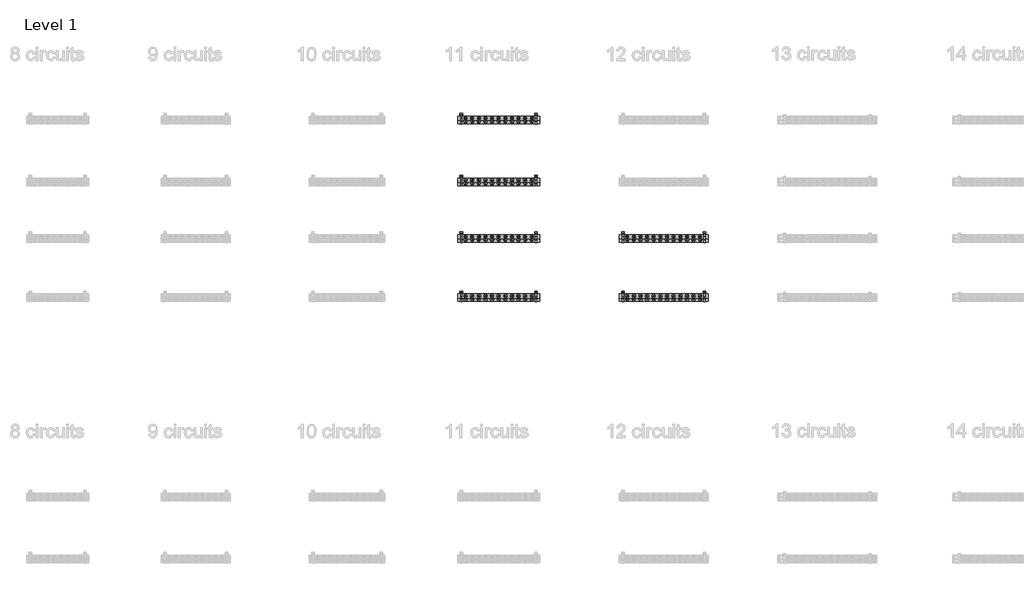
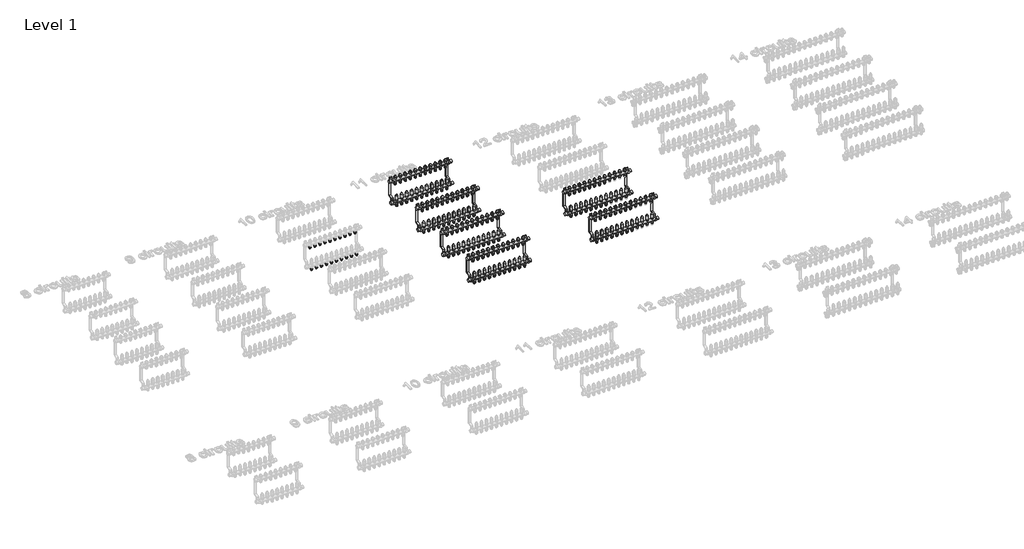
# One storey, part 11 of 23: 140 pipe fittings, 6 valves.
"""IFC4 building model written with IfcOpenShell, lengths in millimetres."""

from ifc_helpers import new_model, si_unit, origin, place, context, project, spatial, transform, mapped, element, save
from components import pipe_fitting_03c6499f, valve_5647343c, valve_f26d3ca9, valve_25ad0012, valve_28fdf4a6, valve_a7423dcf, valve_d379a65c, valve_24eee51e

model = new_model("IFC4")

# Units and contexts
model_context = context("Model", 3, world=origin())
ifc_project = project(units=[si_unit("LENGTHUNIT", "METRE", prefix="MILLI")], contexts=[model_context])

# Site, building, storey
site = spatial("IfcSite", under=ifc_project)
building = spatial("IfcBuilding", under=site)
storey = spatial("IfcBuildingStorey", under=building, Name="Level 1", Elevation=0.0)

# Pipe fittings
placement = place(None, origin())
pipe_fitting_shape = pipe_fitting_03c6499f(model_context)
element("IfcPipeFitting", 1, ObjectType="Euroconus screwing for multilayer pipes - Manifold FT : Euroconus screwing for multilayer pipes - Manifold FT", at=placement, inside=storey, context=model_context, shape_type="MappedRepresentation", body=[
    mapped(pipe_fitting_shape, transform((9725.8685751, 1175.3040686, 62.88733), x_axis=(0.0, 0.0, -1.0), y_axis=(0.0, 1.0000000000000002, 0.0), z_axis=(1.0000000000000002, 0.0, 0.0))),
])
element("IfcPipeFitting", 2, ObjectType="Euroconus screwing for multilayer pipes - Manifold FT : Euroconus screwing for multilayer pipes - Manifold FT", at=placement, inside=storey, context=model_context, shape_type="MappedRepresentation", body=[
    mapped(pipe_fitting_shape, transform((9676.7574639, 1175.3040686, 62.88733), x_axis=(0.0, 0.0, -1.0), y_axis=(0.0, 1.0000000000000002, 0.0), z_axis=(1.0000000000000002, 0.0, 0.0))),
])
element("IfcPipeFitting", 3, ObjectType="Euroconus screwing for multilayer pipes - Manifold FT : Euroconus screwing for multilayer pipes - Manifold FT", at=placement, inside=storey, context=model_context, shape_type="MappedRepresentation", body=[
    mapped(pipe_fitting_shape, transform((9627.6463528, 1175.3040686, 62.88733), x_axis=(0.0, 0.0, -1.0), y_axis=(0.0, 1.0000000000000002, 0.0), z_axis=(1.0000000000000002, 0.0, 0.0))),
])
element("IfcPipeFitting", 4, ObjectType="Euroconus screwing for multilayer pipes - Manifold FT : Euroconus screwing for multilayer pipes - Manifold FT", at=placement, inside=storey, context=model_context, shape_type="MappedRepresentation", body=[
    mapped(pipe_fitting_shape, transform((9578.5352417, 1175.3040686, 62.88733), x_axis=(0.0, 0.0, -1.0), y_axis=(0.0, 1.0000000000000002, 0.0), z_axis=(1.0000000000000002, 0.0, 0.0))),
])
element("IfcPipeFitting", 5, ObjectType="Euroconus screwing for multilayer pipes - Manifold FT : Euroconus screwing for multilayer pipes - Manifold FT", at=placement, inside=storey, context=model_context, shape_type="MappedRepresentation", body=[
    mapped(pipe_fitting_shape, transform((9529.4241306, 1175.3040686, 62.88733), x_axis=(0.0, 0.0, -1.0), y_axis=(0.0, 1.0000000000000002, 0.0), z_axis=(1.0000000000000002, 0.0, 0.0))),
])
element("IfcPipeFitting", 6, ObjectType="Euroconus screwing for multilayer pipes - Manifold FT : Euroconus screwing for multilayer pipes - Manifold FT", at=placement, inside=storey, context=model_context, shape_type="MappedRepresentation", body=[
    mapped(pipe_fitting_shape, transform((9480.3130195, 1175.3040686, 62.88733), x_axis=(0.0, 0.0, -1.0), y_axis=(0.0, 1.0000000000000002, 0.0), z_axis=(1.0000000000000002, 0.0, 0.0))),
])
element("IfcPipeFitting", 7, ObjectType="Euroconus screwing for multilayer pipes - Manifold FT : Euroconus screwing for multilayer pipes - Manifold FT", at=placement, inside=storey, context=model_context, shape_type="MappedRepresentation", body=[
    mapped(pipe_fitting_shape, transform((9431.2019084, 1175.3040686, 62.88733), x_axis=(0.0, 0.0, -1.0), y_axis=(0.0, 1.0000000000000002, 0.0), z_axis=(1.0000000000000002, 0.0, 0.0))),
])
element("IfcPipeFitting", 8, ObjectType="Euroconus screwing for multilayer pipes - Manifold FT : Euroconus screwing for multilayer pipes - Manifold FT", at=placement, inside=storey, context=model_context, shape_type="MappedRepresentation", body=[
    mapped(pipe_fitting_shape, transform((9382.0907973, 1175.3040686, 62.88733), x_axis=(0.0, 0.0, -1.0), y_axis=(0.0, 1.0000000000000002, 0.0), z_axis=(1.0000000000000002, 0.0, 0.0))),
])
element("IfcPipeFitting", 9, ObjectType="Euroconus screwing for multilayer pipes - Manifold FT : Euroconus screwing for multilayer pipes - Manifold FT", at=placement, inside=storey, context=model_context, shape_type="MappedRepresentation", body=[
    mapped(pipe_fitting_shape, transform((9774.9796862, 1175.3040686, 62.88733), x_axis=(0.0, 0.0, -1.0), y_axis=(0.0, 1.0000000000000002, 0.0), z_axis=(1.0000000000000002, 0.0, 0.0))),
])
element("IfcPipeFitting", 10, ObjectType="Euroconus screwing for multilayer pipes - Manifold FT : Euroconus screwing for multilayer pipes - Manifold FT", at=placement, inside=storey, context=model_context, shape_type="MappedRepresentation", body=[
    mapped(pipe_fitting_shape, transform((9725.8685751, 1200.3040686, 272.88733), x_axis=(0.0, 0.0, -1.0), y_axis=(0.0, 1.0000000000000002, 0.0), z_axis=(1.0000000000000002, 0.0, 0.0))),
])
element("IfcPipeFitting", 11, ObjectType="Euroconus screwing for multilayer pipes - Manifold FT : Euroconus screwing for multilayer pipes - Manifold FT", at=placement, inside=storey, context=model_context, shape_type="MappedRepresentation", body=[
    mapped(pipe_fitting_shape, transform((9676.7574639, 1200.3040686, 272.88733), x_axis=(0.0, 0.0, -1.0), y_axis=(0.0, 1.0000000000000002, 0.0), z_axis=(1.0000000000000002, 0.0, 0.0))),
])
element("IfcPipeFitting", 12, ObjectType="Euroconus screwing for multilayer pipes - Manifold FT : Euroconus screwing for multilayer pipes - Manifold FT", at=placement, inside=storey, context=model_context, shape_type="MappedRepresentation", body=[
    mapped(pipe_fitting_shape, transform((9627.6463528, 1200.3040686, 272.88733), x_axis=(0.0, 0.0, -1.0), y_axis=(0.0, 1.0000000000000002, 0.0), z_axis=(1.0000000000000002, 0.0, 0.0))),
])
element("IfcPipeFitting", 13, ObjectType="Euroconus screwing for multilayer pipes - Manifold FT : Euroconus screwing for multilayer pipes - Manifold FT", at=placement, inside=storey, context=model_context, shape_type="MappedRepresentation", body=[
    mapped(pipe_fitting_shape, transform((9578.5352417, 1200.3040686, 272.88733), x_axis=(0.0, 0.0, -1.0), y_axis=(0.0, 1.0000000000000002, 0.0), z_axis=(1.0000000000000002, 0.0, 0.0))),
])
element("IfcPipeFitting", 14, ObjectType="Euroconus screwing for multilayer pipes - Manifold FT : Euroconus screwing for multilayer pipes - Manifold FT", at=placement, inside=storey, context=model_context, shape_type="MappedRepresentation", body=[
    mapped(pipe_fitting_shape, transform((9529.4241306, 1200.3040686, 272.88733), x_axis=(0.0, 0.0, -1.0), y_axis=(0.0, 1.0000000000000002, 0.0), z_axis=(1.0000000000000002, 0.0, 0.0))),
])
element("IfcPipeFitting", 15, ObjectType="Euroconus screwing for multilayer pipes - Manifold FT : Euroconus screwing for multilayer pipes - Manifold FT", at=placement, inside=storey, context=model_context, shape_type="MappedRepresentation", body=[
    mapped(pipe_fitting_shape, transform((9480.3130195, 1200.3040686, 272.88733), x_axis=(0.0, 0.0, -1.0), y_axis=(0.0, 1.0000000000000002, 0.0), z_axis=(1.0000000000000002, 0.0, 0.0))),
])
element("IfcPipeFitting", 16, ObjectType="Euroconus screwing for multilayer pipes - Manifold FT : Euroconus screwing for multilayer pipes - Manifold FT", at=placement, inside=storey, context=model_context, shape_type="MappedRepresentation", body=[
    mapped(pipe_fitting_shape, transform((9431.2019084, 1200.3040686, 272.88733), x_axis=(0.0, 0.0, -1.0), y_axis=(0.0, 1.0000000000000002, 0.0), z_axis=(1.0000000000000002, 0.0, 0.0))),
])
element("IfcPipeFitting", 17, ObjectType="Euroconus screwing for multilayer pipes - Manifold FT : Euroconus screwing for multilayer pipes - Manifold FT", at=placement, inside=storey, context=model_context, shape_type="MappedRepresentation", body=[
    mapped(pipe_fitting_shape, transform((9382.0907973, 1200.3040686, 272.88733), x_axis=(0.0, 0.0, -1.0), y_axis=(0.0, 1.0000000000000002, 0.0), z_axis=(1.0000000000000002, 0.0, 0.0))),
])
element("IfcPipeFitting", 18, ObjectType="Euroconus screwing for multilayer pipes - Manifold FT : Euroconus screwing for multilayer pipes - Manifold FT", at=placement, inside=storey, context=model_context, shape_type="MappedRepresentation", body=[
    mapped(pipe_fitting_shape, transform((9774.9796862, 1200.3040686, 272.88733), x_axis=(0.0, 0.0, -1.0), y_axis=(0.0, 1.0000000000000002, 0.0), z_axis=(1.0000000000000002, 0.0, 0.0))),
])
element("IfcPipeFitting", 19, ObjectType="Euroconus screwing for multilayer pipes - Manifold FT : Euroconus screwing for multilayer pipes - Manifold FT", at=placement, inside=storey, context=model_context, shape_type="MappedRepresentation", body=[
    mapped(pipe_fitting_shape, transform((9332.9796862, 1175.3040686, 62.88733), x_axis=(0.0, 0.0, -1.0), y_axis=(0.0, 1.0000000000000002, 0.0), z_axis=(1.0000000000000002, 0.0, 0.0))),
])
element("IfcPipeFitting", 20, ObjectType="Euroconus screwing for multilayer pipes - Manifold FT : Euroconus screwing for multilayer pipes - Manifold FT", at=placement, inside=storey, context=model_context, shape_type="MappedRepresentation", body=[
    mapped(pipe_fitting_shape, transform((9332.9796862, 1200.3040686, 272.88733), x_axis=(0.0, 0.0, -1.0), y_axis=(0.0, 1.0000000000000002, 0.0), z_axis=(1.0000000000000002, 0.0, 0.0))),
])
element("IfcPipeFitting", 21, ObjectType="Euroconus screwing for multilayer pipes - Manifold FT : Euroconus screwing for multilayer pipes - Manifold FT", at=placement, inside=storey, context=model_context, shape_type="MappedRepresentation", body=[
    mapped(pipe_fitting_shape, transform((10875.7796862, 1635.3040686, 62.88733), x_axis=(0.0, 0.0, -1.0), y_axis=(0.0, 1.0000000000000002, 0.0), z_axis=(1.0000000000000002, 0.0, 0.0))),
])
element("IfcPipeFitting", 22, ObjectType="Euroconus screwing for multilayer pipes - Manifold FT : Euroconus screwing for multilayer pipes - Manifold FT", at=placement, inside=storey, context=model_context, shape_type="MappedRepresentation", body=[
    mapped(pipe_fitting_shape, transform((10826.5796862, 1635.3040686, 62.88733), x_axis=(0.0, 0.0, -1.0), y_axis=(0.0, 1.0000000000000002, 0.0), z_axis=(1.0000000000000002, 0.0, 0.0))),
])
element("IfcPipeFitting", 23, ObjectType="Euroconus screwing for multilayer pipes - Manifold FT : Euroconus screwing for multilayer pipes - Manifold FT", at=placement, inside=storey, context=model_context, shape_type="MappedRepresentation", body=[
    mapped(pipe_fitting_shape, transform((10777.3796862, 1635.3040686, 62.88733), x_axis=(0.0, 0.0, -1.0), y_axis=(0.0, 1.0000000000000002, 0.0), z_axis=(1.0000000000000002, 0.0, 0.0))),
])
element("IfcPipeFitting", 24, ObjectType="Euroconus screwing for multilayer pipes - Manifold FT : Euroconus screwing for multilayer pipes - Manifold FT", at=placement, inside=storey, context=model_context, shape_type="MappedRepresentation", body=[
    mapped(pipe_fitting_shape, transform((10728.1796862, 1635.3040686, 62.88733), x_axis=(0.0, 0.0, -1.0), y_axis=(0.0, 1.0000000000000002, 0.0), z_axis=(1.0000000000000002, 0.0, 0.0))),
])
element("IfcPipeFitting", 25, ObjectType="Euroconus screwing for multilayer pipes - Manifold FT : Euroconus screwing for multilayer pipes - Manifold FT", at=placement, inside=storey, context=model_context, shape_type="MappedRepresentation", body=[
    mapped(pipe_fitting_shape, transform((10678.9796862, 1635.3040686, 62.88733), x_axis=(0.0, 0.0, -1.0), y_axis=(0.0, 1.0000000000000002, 0.0), z_axis=(1.0000000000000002, 0.0, 0.0))),
])
element("IfcPipeFitting", 26, ObjectType="Euroconus screwing for multilayer pipes - Manifold FT : Euroconus screwing for multilayer pipes - Manifold FT", at=placement, inside=storey, context=model_context, shape_type="MappedRepresentation", body=[
    mapped(pipe_fitting_shape, transform((10629.7796862, 1635.3040686, 62.88733), x_axis=(0.0, 0.0, -1.0), y_axis=(0.0, 1.0000000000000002, 0.0), z_axis=(1.0000000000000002, 0.0, 0.0))),
])
element("IfcPipeFitting", 27, ObjectType="Euroconus screwing for multilayer pipes - Manifold FT : Euroconus screwing for multilayer pipes - Manifold FT", at=placement, inside=storey, context=model_context, shape_type="MappedRepresentation", body=[
    mapped(pipe_fitting_shape, transform((10580.5796862, 1635.3040686, 62.88733), x_axis=(0.0, 0.0, -1.0), y_axis=(0.0, 1.0000000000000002, 0.0), z_axis=(1.0000000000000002, 0.0, 0.0))),
])
element("IfcPipeFitting", 28, ObjectType="Euroconus screwing for multilayer pipes - Manifold FT : Euroconus screwing for multilayer pipes - Manifold FT", at=placement, inside=storey, context=model_context, shape_type="MappedRepresentation", body=[
    mapped(pipe_fitting_shape, transform((10531.3796862, 1635.3040686, 62.88733), x_axis=(0.0, 0.0, -1.0), y_axis=(0.0, 1.0000000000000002, 0.0), z_axis=(1.0000000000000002, 0.0, 0.0))),
])
element("IfcPipeFitting", 29, ObjectType="Euroconus screwing for multilayer pipes - Manifold FT : Euroconus screwing for multilayer pipes - Manifold FT", at=placement, inside=storey, context=model_context, shape_type="MappedRepresentation", body=[
    mapped(pipe_fitting_shape, transform((10482.1796862, 1635.3040686, 62.88733), x_axis=(0.0, 0.0, -1.0), y_axis=(0.0, 1.0000000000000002, 0.0), z_axis=(1.0000000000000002, 0.0, 0.0))),
])
element("IfcPipeFitting", 30, ObjectType="Euroconus screwing for multilayer pipes - Manifold FT : Euroconus screwing for multilayer pipes - Manifold FT", at=placement, inside=storey, context=model_context, shape_type="MappedRepresentation", body=[
    mapped(pipe_fitting_shape, transform((10924.9796862, 1635.3040686, 62.88733), x_axis=(0.0, 0.0, -1.0), y_axis=(0.0, 1.0000000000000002, 0.0), z_axis=(1.0000000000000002, 0.0, 0.0))),
])
element("IfcPipeFitting", 31, ObjectType="Euroconus screwing for multilayer pipes - Manifold FT : Euroconus screwing for multilayer pipes - Manifold FT", at=placement, inside=storey, context=model_context, shape_type="MappedRepresentation", body=[
    mapped(pipe_fitting_shape, transform((10875.7796862, 1660.3040686, 272.88733), x_axis=(0.0, 0.0, -1.0), y_axis=(0.0, 1.0000000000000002, 0.0), z_axis=(1.0000000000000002, 0.0, 0.0))),
])
element("IfcPipeFitting", 32, ObjectType="Euroconus screwing for multilayer pipes - Manifold FT : Euroconus screwing for multilayer pipes - Manifold FT", at=placement, inside=storey, context=model_context, shape_type="MappedRepresentation", body=[
    mapped(pipe_fitting_shape, transform((10826.5796862, 1660.3040686, 272.88733), x_axis=(0.0, 0.0, -1.0), y_axis=(0.0, 1.0000000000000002, 0.0), z_axis=(1.0000000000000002, 0.0, 0.0))),
])
element("IfcPipeFitting", 33, ObjectType="Euroconus screwing for multilayer pipes - Manifold FT : Euroconus screwing for multilayer pipes - Manifold FT", at=placement, inside=storey, context=model_context, shape_type="MappedRepresentation", body=[
    mapped(pipe_fitting_shape, transform((10777.3796862, 1660.3040686, 272.88733), x_axis=(0.0, 0.0, -1.0), y_axis=(0.0, 1.0000000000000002, 0.0), z_axis=(1.0000000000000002, 0.0, 0.0))),
])
element("IfcPipeFitting", 34, ObjectType="Euroconus screwing for multilayer pipes - Manifold FT : Euroconus screwing for multilayer pipes - Manifold FT", at=placement, inside=storey, context=model_context, shape_type="MappedRepresentation", body=[
    mapped(pipe_fitting_shape, transform((10728.1796862, 1660.3040686, 272.88733), x_axis=(0.0, 0.0, -1.0), y_axis=(0.0, 1.0000000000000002, 0.0), z_axis=(1.0000000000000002, 0.0, 0.0))),
])
element("IfcPipeFitting", 35, ObjectType="Euroconus screwing for multilayer pipes - Manifold FT : Euroconus screwing for multilayer pipes - Manifold FT", at=placement, inside=storey, context=model_context, shape_type="MappedRepresentation", body=[
    mapped(pipe_fitting_shape, transform((10678.9796862, 1660.3040686, 272.88733), x_axis=(0.0, 0.0, -1.0), y_axis=(0.0, 1.0000000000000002, 0.0), z_axis=(1.0000000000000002, 0.0, 0.0))),
])
element("IfcPipeFitting", 36, ObjectType="Euroconus screwing for multilayer pipes - Manifold FT : Euroconus screwing for multilayer pipes - Manifold FT", at=placement, inside=storey, context=model_context, shape_type="MappedRepresentation", body=[
    mapped(pipe_fitting_shape, transform((10629.7796862, 1660.3040686, 272.88733), x_axis=(0.0, 0.0, -1.0), y_axis=(0.0, 1.0000000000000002, 0.0), z_axis=(1.0000000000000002, 0.0, 0.0))),
])
element("IfcPipeFitting", 37, ObjectType="Euroconus screwing for multilayer pipes - Manifold FT : Euroconus screwing for multilayer pipes - Manifold FT", at=placement, inside=storey, context=model_context, shape_type="MappedRepresentation", body=[
    mapped(pipe_fitting_shape, transform((10580.5796862, 1660.3040686, 272.88733), x_axis=(0.0, 0.0, -1.0), y_axis=(0.0, 1.0000000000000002, 0.0), z_axis=(1.0000000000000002, 0.0, 0.0))),
])
element("IfcPipeFitting", 38, ObjectType="Euroconus screwing for multilayer pipes - Manifold FT : Euroconus screwing for multilayer pipes - Manifold FT", at=placement, inside=storey, context=model_context, shape_type="MappedRepresentation", body=[
    mapped(pipe_fitting_shape, transform((10531.3796862, 1660.3040686, 272.88733), x_axis=(0.0, 0.0, -1.0), y_axis=(0.0, 1.0000000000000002, 0.0), z_axis=(1.0000000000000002, 0.0, 0.0))),
])
element("IfcPipeFitting", 39, ObjectType="Euroconus screwing for multilayer pipes - Manifold FT : Euroconus screwing for multilayer pipes - Manifold FT", at=placement, inside=storey, context=model_context, shape_type="MappedRepresentation", body=[
    mapped(pipe_fitting_shape, transform((10482.1796862, 1660.3040686, 272.88733), x_axis=(0.0, 0.0, -1.0), y_axis=(0.0, 1.0000000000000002, 0.0), z_axis=(1.0000000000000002, 0.0, 0.0))),
])
element("IfcPipeFitting", 40, ObjectType="Euroconus screwing for multilayer pipes - Manifold FT : Euroconus screwing for multilayer pipes - Manifold FT", at=placement, inside=storey, context=model_context, shape_type="MappedRepresentation", body=[
    mapped(pipe_fitting_shape, transform((10924.9796862, 1660.3040686, 272.88733), x_axis=(0.0, 0.0, -1.0), y_axis=(0.0, 1.0000000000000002, 0.0), z_axis=(1.0000000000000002, 0.0, 0.0))),
])
element("IfcPipeFitting", 41, ObjectType="Euroconus screwing for multilayer pipes - Manifold FT : Euroconus screwing for multilayer pipes - Manifold FT", at=placement, inside=storey, context=model_context, shape_type="MappedRepresentation", body=[
    mapped(pipe_fitting_shape, transform((10432.9796862, 1635.3040686, 62.88733), x_axis=(0.0, 0.0, -1.0), y_axis=(0.0, 1.0000000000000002, 0.0), z_axis=(1.0000000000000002, 0.0, 0.0))),
])
element("IfcPipeFitting", 42, ObjectType="Euroconus screwing for multilayer pipes - Manifold FT : Euroconus screwing for multilayer pipes - Manifold FT", at=placement, inside=storey, context=model_context, shape_type="MappedRepresentation", body=[
    mapped(pipe_fitting_shape, transform((10432.9796862, 1660.3040686, 272.88733), x_axis=(0.0, 0.0, -1.0), y_axis=(0.0, 1.0000000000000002, 0.0), z_axis=(1.0000000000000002, 0.0, 0.0))),
])
element("IfcPipeFitting", 43, ObjectType="Euroconus screwing for multilayer pipes - Manifold FT : Euroconus screwing for multilayer pipes - Manifold FT", at=placement, inside=storey, context=model_context, shape_type="MappedRepresentation", body=[
    mapped(pipe_fitting_shape, transform((10875.7796862, 1175.3040686, 62.88733), x_axis=(0.0, 0.0, -1.0), y_axis=(0.0, 1.0000000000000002, 0.0), z_axis=(1.0000000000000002, 0.0, 0.0))),
])
element("IfcPipeFitting", 44, ObjectType="Euroconus screwing for multilayer pipes - Manifold FT : Euroconus screwing for multilayer pipes - Manifold FT", at=placement, inside=storey, context=model_context, shape_type="MappedRepresentation", body=[
    mapped(pipe_fitting_shape, transform((10826.5796862, 1175.3040686, 62.88733), x_axis=(0.0, 0.0, -1.0), y_axis=(0.0, 1.0000000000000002, 0.0), z_axis=(1.0000000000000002, 0.0, 0.0))),
])
element("IfcPipeFitting", 45, ObjectType="Euroconus screwing for multilayer pipes - Manifold FT : Euroconus screwing for multilayer pipes - Manifold FT", at=placement, inside=storey, context=model_context, shape_type="MappedRepresentation", body=[
    mapped(pipe_fitting_shape, transform((10777.3796862, 1175.3040686, 62.88733), x_axis=(0.0, 0.0, -1.0), y_axis=(0.0, 1.0000000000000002, 0.0), z_axis=(1.0000000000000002, 0.0, 0.0))),
])
element("IfcPipeFitting", 46, ObjectType="Euroconus screwing for multilayer pipes - Manifold FT : Euroconus screwing for multilayer pipes - Manifold FT", at=placement, inside=storey, context=model_context, shape_type="MappedRepresentation", body=[
    mapped(pipe_fitting_shape, transform((10728.1796862, 1175.3040686, 62.88733), x_axis=(0.0, 0.0, -1.0), y_axis=(0.0, 1.0000000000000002, 0.0), z_axis=(1.0000000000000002, 0.0, 0.0))),
])
element("IfcPipeFitting", 47, ObjectType="Euroconus screwing for multilayer pipes - Manifold FT : Euroconus screwing for multilayer pipes - Manifold FT", at=placement, inside=storey, context=model_context, shape_type="MappedRepresentation", body=[
    mapped(pipe_fitting_shape, transform((10678.9796862, 1175.3040686, 62.88733), x_axis=(0.0, 0.0, -1.0), y_axis=(0.0, 1.0000000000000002, 0.0), z_axis=(1.0000000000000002, 0.0, 0.0))),
])
element("IfcPipeFitting", 48, ObjectType="Euroconus screwing for multilayer pipes - Manifold FT : Euroconus screwing for multilayer pipes - Manifold FT", at=placement, inside=storey, context=model_context, shape_type="MappedRepresentation", body=[
    mapped(pipe_fitting_shape, transform((10629.7796862, 1175.3040686, 62.88733), x_axis=(0.0, 0.0, -1.0), y_axis=(0.0, 1.0000000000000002, 0.0), z_axis=(1.0000000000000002, 0.0, 0.0))),
])
element("IfcPipeFitting", 49, ObjectType="Euroconus screwing for multilayer pipes - Manifold FT : Euroconus screwing for multilayer pipes - Manifold FT", at=placement, inside=storey, context=model_context, shape_type="MappedRepresentation", body=[
    mapped(pipe_fitting_shape, transform((10580.5796862, 1175.3040686, 62.88733), x_axis=(0.0, 0.0, -1.0), y_axis=(0.0, 1.0000000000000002, 0.0), z_axis=(1.0000000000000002, 0.0, 0.0))),
])
element("IfcPipeFitting", 50, ObjectType="Euroconus screwing for multilayer pipes - Manifold FT : Euroconus screwing for multilayer pipes - Manifold FT", at=placement, inside=storey, context=model_context, shape_type="MappedRepresentation", body=[
    mapped(pipe_fitting_shape, transform((10531.3796862, 1175.3040686, 62.88733), x_axis=(0.0, 0.0, -1.0), y_axis=(0.0, 1.0000000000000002, 0.0), z_axis=(1.0000000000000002, 0.0, 0.0))),
])
element("IfcPipeFitting", 51, ObjectType="Euroconus screwing for multilayer pipes - Manifold FT : Euroconus screwing for multilayer pipes - Manifold FT", at=placement, inside=storey, context=model_context, shape_type="MappedRepresentation", body=[
    mapped(pipe_fitting_shape, transform((10482.1796862, 1175.3040686, 62.88733), x_axis=(0.0, 0.0, -1.0), y_axis=(0.0, 1.0000000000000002, 0.0), z_axis=(1.0000000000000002, 0.0, 0.0))),
])
element("IfcPipeFitting", 52, ObjectType="Euroconus screwing for multilayer pipes - Manifold FT : Euroconus screwing for multilayer pipes - Manifold FT", at=placement, inside=storey, context=model_context, shape_type="MappedRepresentation", body=[
    mapped(pipe_fitting_shape, transform((10924.9796862, 1175.3040686, 62.88733), x_axis=(0.0, 0.0, -1.0), y_axis=(0.0, 1.0000000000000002, 0.0), z_axis=(1.0000000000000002, 0.0, 0.0))),
])
element("IfcPipeFitting", 53, ObjectType="Euroconus screwing for multilayer pipes - Manifold FT : Euroconus screwing for multilayer pipes - Manifold FT", at=placement, inside=storey, context=model_context, shape_type="MappedRepresentation", body=[
    mapped(pipe_fitting_shape, transform((10875.7796862, 1200.3040686, 272.88733), x_axis=(0.0, 0.0, -1.0), y_axis=(0.0, 1.0000000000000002, 0.0), z_axis=(1.0000000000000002, 0.0, 0.0))),
])
element("IfcPipeFitting", 54, ObjectType="Euroconus screwing for multilayer pipes - Manifold FT : Euroconus screwing for multilayer pipes - Manifold FT", at=placement, inside=storey, context=model_context, shape_type="MappedRepresentation", body=[
    mapped(pipe_fitting_shape, transform((10826.5796862, 1200.3040686, 272.88733), x_axis=(0.0, 0.0, -1.0), y_axis=(0.0, 1.0000000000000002, 0.0), z_axis=(1.0000000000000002, 0.0, 0.0))),
])
element("IfcPipeFitting", 55, ObjectType="Euroconus screwing for multilayer pipes - Manifold FT : Euroconus screwing for multilayer pipes - Manifold FT", at=placement, inside=storey, context=model_context, shape_type="MappedRepresentation", body=[
    mapped(pipe_fitting_shape, transform((10777.3796862, 1200.3040686, 272.88733), x_axis=(0.0, 0.0, -1.0), y_axis=(0.0, 1.0000000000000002, 0.0), z_axis=(1.0000000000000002, 0.0, 0.0))),
])
element("IfcPipeFitting", 56, ObjectType="Euroconus screwing for multilayer pipes - Manifold FT : Euroconus screwing for multilayer pipes - Manifold FT", at=placement, inside=storey, context=model_context, shape_type="MappedRepresentation", body=[
    mapped(pipe_fitting_shape, transform((10728.1796862, 1200.3040686, 272.88733), x_axis=(0.0, 0.0, -1.0), y_axis=(0.0, 1.0000000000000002, 0.0), z_axis=(1.0000000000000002, 0.0, 0.0))),
])
element("IfcPipeFitting", 57, ObjectType="Euroconus screwing for multilayer pipes - Manifold FT : Euroconus screwing for multilayer pipes - Manifold FT", at=placement, inside=storey, context=model_context, shape_type="MappedRepresentation", body=[
    mapped(pipe_fitting_shape, transform((10678.9796862, 1200.3040686, 272.88733), x_axis=(0.0, 0.0, -1.0), y_axis=(0.0, 1.0000000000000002, 0.0), z_axis=(1.0000000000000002, 0.0, 0.0))),
])
element("IfcPipeFitting", 58, ObjectType="Euroconus screwing for multilayer pipes - Manifold FT : Euroconus screwing for multilayer pipes - Manifold FT", at=placement, inside=storey, context=model_context, shape_type="MappedRepresentation", body=[
    mapped(pipe_fitting_shape, transform((10629.7796862, 1200.3040686, 272.88733), x_axis=(0.0, 0.0, -1.0), y_axis=(0.0, 1.0000000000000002, 0.0), z_axis=(1.0000000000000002, 0.0, 0.0))),
])
element("IfcPipeFitting", 59, ObjectType="Euroconus screwing for multilayer pipes - Manifold FT : Euroconus screwing for multilayer pipes - Manifold FT", at=placement, inside=storey, context=model_context, shape_type="MappedRepresentation", body=[
    mapped(pipe_fitting_shape, transform((10580.5796862, 1200.3040686, 272.88733), x_axis=(0.0, 0.0, -1.0), y_axis=(0.0, 1.0000000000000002, 0.0), z_axis=(1.0000000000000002, 0.0, 0.0))),
])
element("IfcPipeFitting", 60, ObjectType="Euroconus screwing for multilayer pipes - Manifold FT : Euroconus screwing for multilayer pipes - Manifold FT", at=placement, inside=storey, context=model_context, shape_type="MappedRepresentation", body=[
    mapped(pipe_fitting_shape, transform((10531.3796862, 1200.3040686, 272.88733), x_axis=(0.0, 0.0, -1.0), y_axis=(0.0, 1.0000000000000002, 0.0), z_axis=(1.0000000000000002, 0.0, 0.0))),
])
element("IfcPipeFitting", 61, ObjectType="Euroconus screwing for multilayer pipes - Manifold FT : Euroconus screwing for multilayer pipes - Manifold FT", at=placement, inside=storey, context=model_context, shape_type="MappedRepresentation", body=[
    mapped(pipe_fitting_shape, transform((10482.1796862, 1200.3040686, 272.88733), x_axis=(0.0, 0.0, -1.0), y_axis=(0.0, 1.0000000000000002, 0.0), z_axis=(1.0000000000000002, 0.0, 0.0))),
])
element("IfcPipeFitting", 62, ObjectType="Euroconus screwing for multilayer pipes - Manifold FT : Euroconus screwing for multilayer pipes - Manifold FT", at=placement, inside=storey, context=model_context, shape_type="MappedRepresentation", body=[
    mapped(pipe_fitting_shape, transform((10924.9796862, 1200.3040686, 272.88733), x_axis=(0.0, 0.0, -1.0), y_axis=(0.0, 1.0000000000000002, 0.0), z_axis=(1.0000000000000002, 0.0, 0.0))),
])
element("IfcPipeFitting", 63, ObjectType="Euroconus screwing for multilayer pipes - Manifold FT : Euroconus screwing for multilayer pipes - Manifold FT", at=placement, inside=storey, context=model_context, shape_type="MappedRepresentation", body=[
    mapped(pipe_fitting_shape, transform((10432.9796862, 1175.3040686, 62.88733), x_axis=(0.0, 0.0, -1.0), y_axis=(0.0, 1.0000000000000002, 0.0), z_axis=(1.0000000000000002, 0.0, 0.0))),
])
element("IfcPipeFitting", 64, ObjectType="Euroconus screwing for multilayer pipes - Manifold FT : Euroconus screwing for multilayer pipes - Manifold FT", at=placement, inside=storey, context=model_context, shape_type="MappedRepresentation", body=[
    mapped(pipe_fitting_shape, transform((10432.9796862, 1200.3040686, 272.88733), x_axis=(0.0, 0.0, -1.0), y_axis=(0.0, 1.0000000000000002, 0.0), z_axis=(1.0000000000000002, 0.0, 0.0))),
])
element("IfcPipeFitting", 65, ObjectType="Euroconus screwing for multilayer pipes - Manifold FT : Euroconus screwing for multilayer pipes - Manifold FT", at=placement, inside=storey, context=model_context, shape_type="MappedRepresentation", body=[
    mapped(pipe_fitting_shape, transform((10875.7796862, 755.3040686, 62.88733), x_axis=(0.0, 0.0, -1.0), y_axis=(0.0, 1.0000000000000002, 0.0), z_axis=(1.0000000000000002, 0.0, 0.0))),
])
element("IfcPipeFitting", 66, ObjectType="Euroconus screwing for multilayer pipes - Manifold FT : Euroconus screwing for multilayer pipes - Manifold FT", at=placement, inside=storey, context=model_context, shape_type="MappedRepresentation", body=[
    mapped(pipe_fitting_shape, transform((10826.5796862, 755.3040686, 62.88733), x_axis=(0.0, 0.0, -1.0), y_axis=(0.0, 1.0000000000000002, 0.0), z_axis=(1.0000000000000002, 0.0, 0.0))),
])
element("IfcPipeFitting", 67, ObjectType="Euroconus screwing for multilayer pipes - Manifold FT : Euroconus screwing for multilayer pipes - Manifold FT", at=placement, inside=storey, context=model_context, shape_type="MappedRepresentation", body=[
    mapped(pipe_fitting_shape, transform((10777.3796862, 755.3040686, 62.88733), x_axis=(0.0, 0.0, -1.0), y_axis=(0.0, 1.0000000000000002, 0.0), z_axis=(1.0000000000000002, 0.0, 0.0))),
])
element("IfcPipeFitting", 68, ObjectType="Euroconus screwing for multilayer pipes - Manifold FT : Euroconus screwing for multilayer pipes - Manifold FT", at=placement, inside=storey, context=model_context, shape_type="MappedRepresentation", body=[
    mapped(pipe_fitting_shape, transform((10728.1796862, 755.3040686, 62.88733), x_axis=(0.0, 0.0, -1.0), y_axis=(0.0, 1.0000000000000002, 0.0), z_axis=(1.0000000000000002, 0.0, 0.0))),
])
element("IfcPipeFitting", 69, ObjectType="Euroconus screwing for multilayer pipes - Manifold FT : Euroconus screwing for multilayer pipes - Manifold FT", at=placement, inside=storey, context=model_context, shape_type="MappedRepresentation", body=[
    mapped(pipe_fitting_shape, transform((10678.9796862, 755.3040686, 62.88733), x_axis=(0.0, 0.0, -1.0), y_axis=(0.0, 1.0000000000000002, 0.0), z_axis=(1.0000000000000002, 0.0, 0.0))),
])
element("IfcPipeFitting", 70, ObjectType="Euroconus screwing for multilayer pipes - Manifold FT : Euroconus screwing for multilayer pipes - Manifold FT", at=placement, inside=storey, context=model_context, shape_type="MappedRepresentation", body=[
    mapped(pipe_fitting_shape, transform((10629.7796862, 755.3040686, 62.88733), x_axis=(0.0, 0.0, -1.0), y_axis=(0.0, 1.0000000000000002, 0.0), z_axis=(1.0000000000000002, 0.0, 0.0))),
])
element("IfcPipeFitting", 71, ObjectType="Euroconus screwing for multilayer pipes - Manifold FT : Euroconus screwing for multilayer pipes - Manifold FT", at=placement, inside=storey, context=model_context, shape_type="MappedRepresentation", body=[
    mapped(pipe_fitting_shape, transform((10580.5796862, 755.3040686, 62.88733), x_axis=(0.0, 0.0, -1.0), y_axis=(0.0, 1.0000000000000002, 0.0), z_axis=(1.0000000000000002, 0.0, 0.0))),
])
element("IfcPipeFitting", 72, ObjectType="Euroconus screwing for multilayer pipes - Manifold FT : Euroconus screwing for multilayer pipes - Manifold FT", at=placement, inside=storey, context=model_context, shape_type="MappedRepresentation", body=[
    mapped(pipe_fitting_shape, transform((10531.3796862, 755.3040686, 62.88733), x_axis=(0.0, 0.0, -1.0), y_axis=(0.0, 1.0000000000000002, 0.0), z_axis=(1.0000000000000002, 0.0, 0.0))),
])
element("IfcPipeFitting", 73, ObjectType="Euroconus screwing for multilayer pipes - Manifold FT : Euroconus screwing for multilayer pipes - Manifold FT", at=placement, inside=storey, context=model_context, shape_type="MappedRepresentation", body=[
    mapped(pipe_fitting_shape, transform((10482.1796862, 755.3040686, 62.88733), x_axis=(0.0, 0.0, -1.0), y_axis=(0.0, 1.0000000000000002, 0.0), z_axis=(1.0000000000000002, 0.0, 0.0))),
])
element("IfcPipeFitting", 74, ObjectType="Euroconus screwing for multilayer pipes - Manifold FT : Euroconus screwing for multilayer pipes - Manifold FT", at=placement, inside=storey, context=model_context, shape_type="MappedRepresentation", body=[
    mapped(pipe_fitting_shape, transform((10924.9796862, 755.3040686, 62.88733), x_axis=(0.0, 0.0, -1.0), y_axis=(0.0, 1.0000000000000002, 0.0), z_axis=(1.0000000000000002, 0.0, 0.0))),
])
element("IfcPipeFitting", 75, ObjectType="Euroconus screwing for multilayer pipes - Manifold FT : Euroconus screwing for multilayer pipes - Manifold FT", at=placement, inside=storey, context=model_context, shape_type="MappedRepresentation", body=[
    mapped(pipe_fitting_shape, transform((10875.7796862, 780.3040686, 272.88733), x_axis=(0.0, 0.0, -1.0), y_axis=(0.0, 1.0000000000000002, 0.0), z_axis=(1.0000000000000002, 0.0, 0.0))),
])
element("IfcPipeFitting", 76, ObjectType="Euroconus screwing for multilayer pipes - Manifold FT : Euroconus screwing for multilayer pipes - Manifold FT", at=placement, inside=storey, context=model_context, shape_type="MappedRepresentation", body=[
    mapped(pipe_fitting_shape, transform((10826.5796862, 780.3040686, 272.88733), x_axis=(0.0, 0.0, -1.0), y_axis=(0.0, 1.0000000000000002, 0.0), z_axis=(1.0000000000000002, 0.0, 0.0))),
])
element("IfcPipeFitting", 77, ObjectType="Euroconus screwing for multilayer pipes - Manifold FT : Euroconus screwing for multilayer pipes - Manifold FT", at=placement, inside=storey, context=model_context, shape_type="MappedRepresentation", body=[
    mapped(pipe_fitting_shape, transform((10777.3796862, 780.3040686, 272.88733), x_axis=(0.0, 0.0, -1.0), y_axis=(0.0, 1.0000000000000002, 0.0), z_axis=(1.0000000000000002, 0.0, 0.0))),
])
element("IfcPipeFitting", 78, ObjectType="Euroconus screwing for multilayer pipes - Manifold FT : Euroconus screwing for multilayer pipes - Manifold FT", at=placement, inside=storey, context=model_context, shape_type="MappedRepresentation", body=[
    mapped(pipe_fitting_shape, transform((10728.1796862, 780.3040686, 272.88733), x_axis=(0.0, 0.0, -1.0), y_axis=(0.0, 1.0000000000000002, 0.0), z_axis=(1.0000000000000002, 0.0, 0.0))),
])
element("IfcPipeFitting", 79, ObjectType="Euroconus screwing for multilayer pipes - Manifold FT : Euroconus screwing for multilayer pipes - Manifold FT", at=placement, inside=storey, context=model_context, shape_type="MappedRepresentation", body=[
    mapped(pipe_fitting_shape, transform((10678.9796862, 780.3040686, 272.88733), x_axis=(0.0, 0.0, -1.0), y_axis=(0.0, 1.0000000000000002, 0.0), z_axis=(1.0000000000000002, 0.0, 0.0))),
])
element("IfcPipeFitting", 80, ObjectType="Euroconus screwing for multilayer pipes - Manifold FT : Euroconus screwing for multilayer pipes - Manifold FT", at=placement, inside=storey, context=model_context, shape_type="MappedRepresentation", body=[
    mapped(pipe_fitting_shape, transform((10629.7796862, 780.3040686, 272.88733), x_axis=(0.0, 0.0, -1.0), y_axis=(0.0, 1.0000000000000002, 0.0), z_axis=(1.0000000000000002, 0.0, 0.0))),
])
element("IfcPipeFitting", 81, ObjectType="Euroconus screwing for multilayer pipes - Manifold FT : Euroconus screwing for multilayer pipes - Manifold FT", at=placement, inside=storey, context=model_context, shape_type="MappedRepresentation", body=[
    mapped(pipe_fitting_shape, transform((10580.5796862, 780.3040686, 272.88733), x_axis=(0.0, 0.0, -1.0), y_axis=(0.0, 1.0000000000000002, 0.0), z_axis=(1.0000000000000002, 0.0, 0.0))),
])
element("IfcPipeFitting", 82, ObjectType="Euroconus screwing for multilayer pipes - Manifold FT : Euroconus screwing for multilayer pipes - Manifold FT", at=placement, inside=storey, context=model_context, shape_type="MappedRepresentation", body=[
    mapped(pipe_fitting_shape, transform((10531.3796862, 780.3040686, 272.88733), x_axis=(0.0, 0.0, -1.0), y_axis=(0.0, 1.0000000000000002, 0.0), z_axis=(1.0000000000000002, 0.0, 0.0))),
])
element("IfcPipeFitting", 83, ObjectType="Euroconus screwing for multilayer pipes - Manifold FT : Euroconus screwing for multilayer pipes - Manifold FT", at=placement, inside=storey, context=model_context, shape_type="MappedRepresentation", body=[
    mapped(pipe_fitting_shape, transform((10482.1796862, 780.3040686, 272.88733), x_axis=(0.0, 0.0, -1.0), y_axis=(0.0, 1.0000000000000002, 0.0), z_axis=(1.0000000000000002, 0.0, 0.0))),
])
element("IfcPipeFitting", 84, ObjectType="Euroconus screwing for multilayer pipes - Manifold FT : Euroconus screwing for multilayer pipes - Manifold FT", at=placement, inside=storey, context=model_context, shape_type="MappedRepresentation", body=[
    mapped(pipe_fitting_shape, transform((10924.9796862, 780.3040686, 272.88733), x_axis=(0.0, 0.0, -1.0), y_axis=(0.0, 1.0000000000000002, 0.0), z_axis=(1.0000000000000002, 0.0, 0.0))),
])
element("IfcPipeFitting", 85, ObjectType="Euroconus screwing for multilayer pipes - Manifold FT : Euroconus screwing for multilayer pipes - Manifold FT", at=placement, inside=storey, context=model_context, shape_type="MappedRepresentation", body=[
    mapped(pipe_fitting_shape, transform((10432.9796862, 755.3040686, 62.88733), x_axis=(0.0, 0.0, -1.0), y_axis=(0.0, 1.0000000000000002, 0.0), z_axis=(1.0000000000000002, 0.0, 0.0))),
])
element("IfcPipeFitting", 86, ObjectType="Euroconus screwing for multilayer pipes - Manifold FT : Euroconus screwing for multilayer pipes - Manifold FT", at=placement, inside=storey, context=model_context, shape_type="MappedRepresentation", body=[
    mapped(pipe_fitting_shape, transform((10432.9796862, 780.3040686, 272.88733), x_axis=(0.0, 0.0, -1.0), y_axis=(0.0, 1.0000000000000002, 0.0), z_axis=(1.0000000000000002, 0.0, 0.0))),
])
element("IfcPipeFitting", 87, ObjectType="Euroconus screwing for multilayer pipes - Manifold FT : Euroconus screwing for multilayer pipes - Manifold FT", at=placement, inside=storey, context=model_context, shape_type="MappedRepresentation", body=[
    mapped(pipe_fitting_shape, transform((10875.7796862, 315.3040686, 62.88733), x_axis=(0.0, 0.0, -1.0), y_axis=(0.0, 1.0000000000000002, 0.0), z_axis=(1.0000000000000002, 0.0, 0.0))),
])
element("IfcPipeFitting", 88, ObjectType="Euroconus screwing for multilayer pipes - Manifold FT : Euroconus screwing for multilayer pipes - Manifold FT", at=placement, inside=storey, context=model_context, shape_type="MappedRepresentation", body=[
    mapped(pipe_fitting_shape, transform((10826.5796862, 315.3040686, 62.88733), x_axis=(0.0, 0.0, -1.0), y_axis=(0.0, 1.0000000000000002, 0.0), z_axis=(1.0000000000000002, 0.0, 0.0))),
])
element("IfcPipeFitting", 89, ObjectType="Euroconus screwing for multilayer pipes - Manifold FT : Euroconus screwing for multilayer pipes - Manifold FT", at=placement, inside=storey, context=model_context, shape_type="MappedRepresentation", body=[
    mapped(pipe_fitting_shape, transform((10777.3796862, 315.3040686, 62.88733), x_axis=(0.0, 0.0, -1.0), y_axis=(0.0, 1.0000000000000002, 0.0), z_axis=(1.0000000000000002, 0.0, 0.0))),
])
element("IfcPipeFitting", 90, ObjectType="Euroconus screwing for multilayer pipes - Manifold FT : Euroconus screwing for multilayer pipes - Manifold FT", at=placement, inside=storey, context=model_context, shape_type="MappedRepresentation", body=[
    mapped(pipe_fitting_shape, transform((10728.1796862, 315.3040686, 62.88733), x_axis=(0.0, 0.0, -1.0), y_axis=(0.0, 1.0000000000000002, 0.0), z_axis=(1.0000000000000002, 0.0, 0.0))),
])
element("IfcPipeFitting", 91, ObjectType="Euroconus screwing for multilayer pipes - Manifold FT : Euroconus screwing for multilayer pipes - Manifold FT", at=placement, inside=storey, context=model_context, shape_type="MappedRepresentation", body=[
    mapped(pipe_fitting_shape, transform((10678.9796862, 315.3040686, 62.88733), x_axis=(0.0, 0.0, -1.0), y_axis=(0.0, 1.0000000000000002, 0.0), z_axis=(1.0000000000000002, 0.0, 0.0))),
])
element("IfcPipeFitting", 92, ObjectType="Euroconus screwing for multilayer pipes - Manifold FT : Euroconus screwing for multilayer pipes - Manifold FT", at=placement, inside=storey, context=model_context, shape_type="MappedRepresentation", body=[
    mapped(pipe_fitting_shape, transform((10629.7796862, 315.3040686, 62.88733), x_axis=(0.0, 0.0, -1.0), y_axis=(0.0, 1.0000000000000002, 0.0), z_axis=(1.0000000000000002, 0.0, 0.0))),
])
element("IfcPipeFitting", 93, ObjectType="Euroconus screwing for multilayer pipes - Manifold FT : Euroconus screwing for multilayer pipes - Manifold FT", at=placement, inside=storey, context=model_context, shape_type="MappedRepresentation", body=[
    mapped(pipe_fitting_shape, transform((10580.5796862, 315.3040686, 62.88733), x_axis=(0.0, 0.0, -1.0), y_axis=(0.0, 1.0000000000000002, 0.0), z_axis=(1.0000000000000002, 0.0, 0.0))),
])
element("IfcPipeFitting", 94, ObjectType="Euroconus screwing for multilayer pipes - Manifold FT : Euroconus screwing for multilayer pipes - Manifold FT", at=placement, inside=storey, context=model_context, shape_type="MappedRepresentation", body=[
    mapped(pipe_fitting_shape, transform((10531.3796862, 315.3040686, 62.88733), x_axis=(0.0, 0.0, -1.0), y_axis=(0.0, 1.0000000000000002, 0.0), z_axis=(1.0000000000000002, 0.0, 0.0))),
])
element("IfcPipeFitting", 95, ObjectType="Euroconus screwing for multilayer pipes - Manifold FT : Euroconus screwing for multilayer pipes - Manifold FT", at=placement, inside=storey, context=model_context, shape_type="MappedRepresentation", body=[
    mapped(pipe_fitting_shape, transform((10482.1796862, 315.3040686, 62.88733), x_axis=(0.0, 0.0, -1.0), y_axis=(0.0, 1.0000000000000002, 0.0), z_axis=(1.0000000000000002, 0.0, 0.0))),
])
element("IfcPipeFitting", 96, ObjectType="Euroconus screwing for multilayer pipes - Manifold FT : Euroconus screwing for multilayer pipes - Manifold FT", at=placement, inside=storey, context=model_context, shape_type="MappedRepresentation", body=[
    mapped(pipe_fitting_shape, transform((10924.9796862, 315.3040686, 62.88733), x_axis=(0.0, 0.0, -1.0), y_axis=(0.0, 1.0000000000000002, 0.0), z_axis=(1.0000000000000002, 0.0, 0.0))),
])
element("IfcPipeFitting", 97, ObjectType="Euroconus screwing for multilayer pipes - Manifold FT : Euroconus screwing for multilayer pipes - Manifold FT", at=placement, inside=storey, context=model_context, shape_type="MappedRepresentation", body=[
    mapped(pipe_fitting_shape, transform((10875.7796862, 340.3040686, 272.88733), x_axis=(0.0, 0.0, -1.0), y_axis=(0.0, 1.0000000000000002, 0.0), z_axis=(1.0000000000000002, 0.0, 0.0))),
])
element("IfcPipeFitting", 98, ObjectType="Euroconus screwing for multilayer pipes - Manifold FT : Euroconus screwing for multilayer pipes - Manifold FT", at=placement, inside=storey, context=model_context, shape_type="MappedRepresentation", body=[
    mapped(pipe_fitting_shape, transform((10826.5796862, 340.3040686, 272.88733), x_axis=(0.0, 0.0, -1.0), y_axis=(0.0, 1.0000000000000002, 0.0), z_axis=(1.0000000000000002, 0.0, 0.0))),
])
element("IfcPipeFitting", 99, ObjectType="Euroconus screwing for multilayer pipes - Manifold FT : Euroconus screwing for multilayer pipes - Manifold FT", at=placement, inside=storey, context=model_context, shape_type="MappedRepresentation", body=[
    mapped(pipe_fitting_shape, transform((10777.3796862, 340.3040686, 272.88733), x_axis=(0.0, 0.0, -1.0), y_axis=(0.0, 1.0000000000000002, 0.0), z_axis=(1.0000000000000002, 0.0, 0.0))),
])
element("IfcPipeFitting", 100, ObjectType="Euroconus screwing for multilayer pipes - Manifold FT : Euroconus screwing for multilayer pipes - Manifold FT", at=placement, inside=storey, context=model_context, shape_type="MappedRepresentation", body=[
    mapped(pipe_fitting_shape, transform((10728.1796862, 340.3040686, 272.88733), x_axis=(0.0, 0.0, -1.0), y_axis=(0.0, 1.0000000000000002, 0.0), z_axis=(1.0000000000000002, 0.0, 0.0))),
])
element("IfcPipeFitting", 101, ObjectType="Euroconus screwing for multilayer pipes - Manifold FT : Euroconus screwing for multilayer pipes - Manifold FT", at=placement, inside=storey, context=model_context, shape_type="MappedRepresentation", body=[
    mapped(pipe_fitting_shape, transform((10678.9796862, 340.3040686, 272.88733), x_axis=(0.0, 0.0, -1.0), y_axis=(0.0, 1.0000000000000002, 0.0), z_axis=(1.0000000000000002, 0.0, 0.0))),
])
element("IfcPipeFitting", 102, ObjectType="Euroconus screwing for multilayer pipes - Manifold FT : Euroconus screwing for multilayer pipes - Manifold FT", at=placement, inside=storey, context=model_context, shape_type="MappedRepresentation", body=[
    mapped(pipe_fitting_shape, transform((10629.7796862, 340.3040686, 272.88733), x_axis=(0.0, 0.0, -1.0), y_axis=(0.0, 1.0000000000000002, 0.0), z_axis=(1.0000000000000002, 0.0, 0.0))),
])
element("IfcPipeFitting", 103, ObjectType="Euroconus screwing for multilayer pipes - Manifold FT : Euroconus screwing for multilayer pipes - Manifold FT", at=placement, inside=storey, context=model_context, shape_type="MappedRepresentation", body=[
    mapped(pipe_fitting_shape, transform((10580.5796862, 340.3040686, 272.88733), x_axis=(0.0, 0.0, -1.0), y_axis=(0.0, 1.0000000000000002, 0.0), z_axis=(1.0000000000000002, 0.0, 0.0))),
])
element("IfcPipeFitting", 104, ObjectType="Euroconus screwing for multilayer pipes - Manifold FT : Euroconus screwing for multilayer pipes - Manifold FT", at=placement, inside=storey, context=model_context, shape_type="MappedRepresentation", body=[
    mapped(pipe_fitting_shape, transform((10531.3796862, 340.3040686, 272.88733), x_axis=(0.0, 0.0, -1.0), y_axis=(0.0, 1.0000000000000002, 0.0), z_axis=(1.0000000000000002, 0.0, 0.0))),
])
element("IfcPipeFitting", 105, ObjectType="Euroconus screwing for multilayer pipes - Manifold FT : Euroconus screwing for multilayer pipes - Manifold FT", at=placement, inside=storey, context=model_context, shape_type="MappedRepresentation", body=[
    mapped(pipe_fitting_shape, transform((10482.1796862, 340.3040686, 272.88733), x_axis=(0.0, 0.0, -1.0), y_axis=(0.0, 1.0000000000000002, 0.0), z_axis=(1.0000000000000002, 0.0, 0.0))),
])
element("IfcPipeFitting", 106, ObjectType="Euroconus screwing for multilayer pipes - Manifold FT : Euroconus screwing for multilayer pipes - Manifold FT", at=placement, inside=storey, context=model_context, shape_type="MappedRepresentation", body=[
    mapped(pipe_fitting_shape, transform((10924.9796862, 340.3040686, 272.88733), x_axis=(0.0, 0.0, -1.0), y_axis=(0.0, 1.0000000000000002, 0.0), z_axis=(1.0000000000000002, 0.0, 0.0))),
])
element("IfcPipeFitting", 107, ObjectType="Euroconus screwing for multilayer pipes - Manifold FT : Euroconus screwing for multilayer pipes - Manifold FT", at=placement, inside=storey, context=model_context, shape_type="MappedRepresentation", body=[
    mapped(pipe_fitting_shape, transform((10432.9796862, 315.3040686, 62.88733), x_axis=(0.0, 0.0, -1.0), y_axis=(0.0, 1.0000000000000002, 0.0), z_axis=(1.0000000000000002, 0.0, 0.0))),
])
element("IfcPipeFitting", 108, ObjectType="Euroconus screwing for multilayer pipes - Manifold FT : Euroconus screwing for multilayer pipes - Manifold FT", at=placement, inside=storey, context=model_context, shape_type="MappedRepresentation", body=[
    mapped(pipe_fitting_shape, transform((10432.9796862, 340.3040686, 272.88733), x_axis=(0.0, 0.0, -1.0), y_axis=(0.0, 1.0000000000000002, 0.0), z_axis=(1.0000000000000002, 0.0, 0.0))),
])
element("IfcPipeFitting", 109, ObjectType="Euroconus screwing for multilayer pipes - Manifold FT : Euroconus screwing for multilayer pipes - Manifold FT", at=placement, inside=storey, context=model_context, shape_type="MappedRepresentation", body=[
    mapped(pipe_fitting_shape, transform((11977.8887771, 755.3040686, 62.88733), x_axis=(0.0, 0.0, -1.0), y_axis=(0.0, 1.0000000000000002, 0.0), z_axis=(1.0000000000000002, 0.0, 0.0))),
])
element("IfcPipeFitting", 110, ObjectType="Euroconus screwing for multilayer pipes - Manifold FT : Euroconus screwing for multilayer pipes - Manifold FT", at=placement, inside=storey, context=model_context, shape_type="MappedRepresentation", body=[
    mapped(pipe_fitting_shape, transform((11928.6160498, 755.3040686, 62.88733), x_axis=(0.0, 0.0, -1.0), y_axis=(0.0, 1.0000000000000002, 0.0), z_axis=(1.0000000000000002, 0.0, 0.0))),
])
element("IfcPipeFitting", 111, ObjectType="Euroconus screwing for multilayer pipes - Manifold FT : Euroconus screwing for multilayer pipes - Manifold FT", at=placement, inside=storey, context=model_context, shape_type="MappedRepresentation", body=[
    mapped(pipe_fitting_shape, transform((11879.3433225, 755.3040686, 62.88733), x_axis=(0.0, 0.0, -1.0), y_axis=(0.0, 1.0000000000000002, 0.0), z_axis=(1.0000000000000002, 0.0, 0.0))),
])
element("IfcPipeFitting", 112, ObjectType="Euroconus screwing for multilayer pipes - Manifold FT : Euroconus screwing for multilayer pipes - Manifold FT", at=placement, inside=storey, context=model_context, shape_type="MappedRepresentation", body=[
    mapped(pipe_fitting_shape, transform((11830.0705953, 755.3040686, 62.88733), x_axis=(0.0, 0.0, -1.0), y_axis=(0.0, 1.0000000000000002, 0.0), z_axis=(1.0000000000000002, 0.0, 0.0))),
])
element("IfcPipeFitting", 113, ObjectType="Euroconus screwing for multilayer pipes - Manifold FT : Euroconus screwing for multilayer pipes - Manifold FT", at=placement, inside=storey, context=model_context, shape_type="MappedRepresentation", body=[
    mapped(pipe_fitting_shape, transform((11780.797868, 755.3040686, 62.88733), x_axis=(0.0, 0.0, -1.0), y_axis=(0.0, 1.0000000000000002, 0.0), z_axis=(1.0000000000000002, 0.0, 0.0))),
])
element("IfcPipeFitting", 114, ObjectType="Euroconus screwing for multilayer pipes - Manifold FT : Euroconus screwing for multilayer pipes - Manifold FT", at=placement, inside=storey, context=model_context, shape_type="MappedRepresentation", body=[
    mapped(pipe_fitting_shape, transform((11731.5251407, 755.3040686, 62.88733), x_axis=(0.0, 0.0, -1.0), y_axis=(0.0, 1.0000000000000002, 0.0), z_axis=(1.0000000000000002, 0.0, 0.0))),
])
element("IfcPipeFitting", 115, ObjectType="Euroconus screwing for multilayer pipes - Manifold FT : Euroconus screwing for multilayer pipes - Manifold FT", at=placement, inside=storey, context=model_context, shape_type="MappedRepresentation", body=[
    mapped(pipe_fitting_shape, transform((11682.2524134, 755.3040686, 62.88733), x_axis=(0.0, 0.0, -1.0), y_axis=(0.0, 1.0000000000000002, 0.0), z_axis=(1.0000000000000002, 0.0, 0.0))),
])
element("IfcPipeFitting", 116, ObjectType="Euroconus screwing for multilayer pipes - Manifold FT : Euroconus screwing for multilayer pipes - Manifold FT", at=placement, inside=storey, context=model_context, shape_type="MappedRepresentation", body=[
    mapped(pipe_fitting_shape, transform((11977.8887771, 780.3040686, 272.88733), x_axis=(0.0, 0.0, -1.0), y_axis=(0.0, 1.0000000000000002, 0.0), z_axis=(1.0000000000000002, 0.0, 0.0))),
])
element("IfcPipeFitting", 117, ObjectType="Euroconus screwing for multilayer pipes - Manifold FT : Euroconus screwing for multilayer pipes - Manifold FT", at=placement, inside=storey, context=model_context, shape_type="MappedRepresentation", body=[
    mapped(pipe_fitting_shape, transform((11928.6160498, 780.3040686, 272.88733), x_axis=(0.0, 0.0, -1.0), y_axis=(0.0, 1.0000000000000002, 0.0), z_axis=(1.0000000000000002, 0.0, 0.0))),
])
element("IfcPipeFitting", 118, ObjectType="Euroconus screwing for multilayer pipes - Manifold FT : Euroconus screwing for multilayer pipes - Manifold FT", at=placement, inside=storey, context=model_context, shape_type="MappedRepresentation", body=[
    mapped(pipe_fitting_shape, transform((11879.3433225, 780.3040686, 272.88733), x_axis=(0.0, 0.0, -1.0), y_axis=(0.0, 1.0000000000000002, 0.0), z_axis=(1.0000000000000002, 0.0, 0.0))),
])
element("IfcPipeFitting", 119, ObjectType="Euroconus screwing for multilayer pipes - Manifold FT : Euroconus screwing for multilayer pipes - Manifold FT", at=placement, inside=storey, context=model_context, shape_type="MappedRepresentation", body=[
    mapped(pipe_fitting_shape, transform((11830.0705953, 780.3040686, 272.88733), x_axis=(0.0, 0.0, -1.0), y_axis=(0.0, 1.0000000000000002, 0.0), z_axis=(1.0000000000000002, 0.0, 0.0))),
])
element("IfcPipeFitting", 120, ObjectType="Euroconus screwing for multilayer pipes - Manifold FT : Euroconus screwing for multilayer pipes - Manifold FT", at=placement, inside=storey, context=model_context, shape_type="MappedRepresentation", body=[
    mapped(pipe_fitting_shape, transform((11780.797868, 780.3040686, 272.88733), x_axis=(0.0, 0.0, -1.0), y_axis=(0.0, 1.0000000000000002, 0.0), z_axis=(1.0000000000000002, 0.0, 0.0))),
])
element("IfcPipeFitting", 121, ObjectType="Euroconus screwing for multilayer pipes - Manifold FT : Euroconus screwing for multilayer pipes - Manifold FT", at=placement, inside=storey, context=model_context, shape_type="MappedRepresentation", body=[
    mapped(pipe_fitting_shape, transform((11731.5251407, 780.3040686, 272.88733), x_axis=(0.0, 0.0, -1.0), y_axis=(0.0, 1.0000000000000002, 0.0), z_axis=(1.0000000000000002, 0.0, 0.0))),
])
element("IfcPipeFitting", 122, ObjectType="Euroconus screwing for multilayer pipes - Manifold FT : Euroconus screwing for multilayer pipes - Manifold FT", at=placement, inside=storey, context=model_context, shape_type="MappedRepresentation", body=[
    mapped(pipe_fitting_shape, transform((11682.2524134, 780.3040686, 272.88733), x_axis=(0.0, 0.0, -1.0), y_axis=(0.0, 1.0000000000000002, 0.0), z_axis=(1.0000000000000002, 0.0, 0.0))),
])
element("IfcPipeFitting", 123, ObjectType="Euroconus screwing for multilayer pipes - Manifold FT : Euroconus screwing for multilayer pipes - Manifold FT", at=placement, inside=storey, context=model_context, shape_type="MappedRepresentation", body=[
    mapped(pipe_fitting_shape, transform((11632.9796862, 755.3040686, 62.88733), x_axis=(0.0, 0.0, -1.0), y_axis=(0.0, 1.0000000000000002, 0.0), z_axis=(1.0000000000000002, 0.0, 0.0))),
])
element("IfcPipeFitting", 124, ObjectType="Euroconus screwing for multilayer pipes - Manifold FT : Euroconus screwing for multilayer pipes - Manifold FT", at=placement, inside=storey, context=model_context, shape_type="MappedRepresentation", body=[
    mapped(pipe_fitting_shape, transform((11632.9796862, 780.3040686, 272.88733), x_axis=(0.0, 0.0, -1.0), y_axis=(0.0, 1.0000000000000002, 0.0), z_axis=(1.0000000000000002, 0.0, 0.0))),
])
element("IfcPipeFitting", 125, ObjectType="Euroconus screwing for multilayer pipes - Manifold FT : Euroconus screwing for multilayer pipes - Manifold FT", at=placement, inside=storey, context=model_context, shape_type="MappedRepresentation", body=[
    mapped(pipe_fitting_shape, transform((11977.8887771, 315.3040686, 62.88733), x_axis=(0.0, 0.0, -1.0), y_axis=(0.0, 1.0000000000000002, 0.0), z_axis=(1.0000000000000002, 0.0, 0.0))),
])
element("IfcPipeFitting", 126, ObjectType="Euroconus screwing for multilayer pipes - Manifold FT : Euroconus screwing for multilayer pipes - Manifold FT", at=placement, inside=storey, context=model_context, shape_type="MappedRepresentation", body=[
    mapped(pipe_fitting_shape, transform((11928.6160498, 315.3040686, 62.88733), x_axis=(0.0, 0.0, -1.0), y_axis=(0.0, 1.0000000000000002, 0.0), z_axis=(1.0000000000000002, 0.0, 0.0))),
])
element("IfcPipeFitting", 127, ObjectType="Euroconus screwing for multilayer pipes - Manifold FT : Euroconus screwing for multilayer pipes - Manifold FT", at=placement, inside=storey, context=model_context, shape_type="MappedRepresentation", body=[
    mapped(pipe_fitting_shape, transform((11879.3433225, 315.3040686, 62.88733), x_axis=(0.0, 0.0, -1.0), y_axis=(0.0, 1.0000000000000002, 0.0), z_axis=(1.0000000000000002, 0.0, 0.0))),
])
element("IfcPipeFitting", 128, ObjectType="Euroconus screwing for multilayer pipes - Manifold FT : Euroconus screwing for multilayer pipes - Manifold FT", at=placement, inside=storey, context=model_context, shape_type="MappedRepresentation", body=[
    mapped(pipe_fitting_shape, transform((11830.0705953, 315.3040686, 62.88733), x_axis=(0.0, 0.0, -1.0), y_axis=(0.0, 1.0000000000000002, 0.0), z_axis=(1.0000000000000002, 0.0, 0.0))),
])
element("IfcPipeFitting", 129, ObjectType="Euroconus screwing for multilayer pipes - Manifold FT : Euroconus screwing for multilayer pipes - Manifold FT", at=placement, inside=storey, context=model_context, shape_type="MappedRepresentation", body=[
    mapped(pipe_fitting_shape, transform((11780.797868, 315.3040686, 62.88733), x_axis=(0.0, 0.0, -1.0), y_axis=(0.0, 1.0000000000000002, 0.0), z_axis=(1.0000000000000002, 0.0, 0.0))),
])
element("IfcPipeFitting", 130, ObjectType="Euroconus screwing for multilayer pipes - Manifold FT : Euroconus screwing for multilayer pipes - Manifold FT", at=placement, inside=storey, context=model_context, shape_type="MappedRepresentation", body=[
    mapped(pipe_fitting_shape, transform((11731.5251407, 315.3040686, 62.88733), x_axis=(0.0, 0.0, -1.0), y_axis=(0.0, 1.0000000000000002, 0.0), z_axis=(1.0000000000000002, 0.0, 0.0))),
])
element("IfcPipeFitting", 131, ObjectType="Euroconus screwing for multilayer pipes - Manifold FT : Euroconus screwing for multilayer pipes - Manifold FT", at=placement, inside=storey, context=model_context, shape_type="MappedRepresentation", body=[
    mapped(pipe_fitting_shape, transform((11682.2524134, 315.3040686, 62.88733), x_axis=(0.0, 0.0, -1.0), y_axis=(0.0, 1.0000000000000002, 0.0), z_axis=(1.0000000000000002, 0.0, 0.0))),
])
element("IfcPipeFitting", 132, ObjectType="Euroconus screwing for multilayer pipes - Manifold FT : Euroconus screwing for multilayer pipes - Manifold FT", at=placement, inside=storey, context=model_context, shape_type="MappedRepresentation", body=[
    mapped(pipe_fitting_shape, transform((11977.8887771, 340.3040686, 272.88733), x_axis=(0.0, 0.0, -1.0), y_axis=(0.0, 1.0000000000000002, 0.0), z_axis=(1.0000000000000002, 0.0, 0.0))),
])
element("IfcPipeFitting", 133, ObjectType="Euroconus screwing for multilayer pipes - Manifold FT : Euroconus screwing for multilayer pipes - Manifold FT", at=placement, inside=storey, context=model_context, shape_type="MappedRepresentation", body=[
    mapped(pipe_fitting_shape, transform((11928.6160498, 340.3040686, 272.88733), x_axis=(0.0, 0.0, -1.0), y_axis=(0.0, 1.0000000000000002, 0.0), z_axis=(1.0000000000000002, 0.0, 0.0))),
])
element("IfcPipeFitting", 134, ObjectType="Euroconus screwing for multilayer pipes - Manifold FT : Euroconus screwing for multilayer pipes - Manifold FT", at=placement, inside=storey, context=model_context, shape_type="MappedRepresentation", body=[
    mapped(pipe_fitting_shape, transform((11879.3433225, 340.3040686, 272.88733), x_axis=(0.0, 0.0, -1.0), y_axis=(0.0, 1.0000000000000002, 0.0), z_axis=(1.0000000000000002, 0.0, 0.0))),
])
element("IfcPipeFitting", 135, ObjectType="Euroconus screwing for multilayer pipes - Manifold FT : Euroconus screwing for multilayer pipes - Manifold FT", at=placement, inside=storey, context=model_context, shape_type="MappedRepresentation", body=[
    mapped(pipe_fitting_shape, transform((11830.0705953, 340.3040686, 272.88733), x_axis=(0.0, 0.0, -1.0), y_axis=(0.0, 1.0000000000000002, 0.0), z_axis=(1.0000000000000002, 0.0, 0.0))),
])
element("IfcPipeFitting", 136, ObjectType="Euroconus screwing for multilayer pipes - Manifold FT : Euroconus screwing for multilayer pipes - Manifold FT", at=placement, inside=storey, context=model_context, shape_type="MappedRepresentation", body=[
    mapped(pipe_fitting_shape, transform((11780.797868, 340.3040686, 272.88733), x_axis=(0.0, 0.0, -1.0), y_axis=(0.0, 1.0000000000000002, 0.0), z_axis=(1.0000000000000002, 0.0, 0.0))),
])
element("IfcPipeFitting", 137, ObjectType="Euroconus screwing for multilayer pipes - Manifold FT : Euroconus screwing for multilayer pipes - Manifold FT", at=placement, inside=storey, context=model_context, shape_type="MappedRepresentation", body=[
    mapped(pipe_fitting_shape, transform((11731.5251407, 340.3040686, 272.88733), x_axis=(0.0, 0.0, -1.0), y_axis=(0.0, 1.0000000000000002, 0.0), z_axis=(1.0000000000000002, 0.0, 0.0))),
])
element("IfcPipeFitting", 138, ObjectType="Euroconus screwing for multilayer pipes - Manifold FT : Euroconus screwing for multilayer pipes - Manifold FT", at=placement, inside=storey, context=model_context, shape_type="MappedRepresentation", body=[
    mapped(pipe_fitting_shape, transform((11682.2524134, 340.3040686, 272.88733), x_axis=(0.0, 0.0, -1.0), y_axis=(0.0, 1.0000000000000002, 0.0), z_axis=(1.0000000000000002, 0.0, 0.0))),
])
element("IfcPipeFitting", 139, ObjectType="Euroconus screwing for multilayer pipes - Manifold FT : Euroconus screwing for multilayer pipes - Manifold FT", at=placement, inside=storey, context=model_context, shape_type="MappedRepresentation", body=[
    mapped(pipe_fitting_shape, transform((11632.9796862, 315.3040686, 62.88733), x_axis=(0.0, 0.0, -1.0), y_axis=(0.0, 1.0000000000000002, 0.0), z_axis=(1.0000000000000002, 0.0, 0.0))),
])
element("IfcPipeFitting", 140, ObjectType="Euroconus screwing for multilayer pipes - Manifold FT : Euroconus screwing for multilayer pipes - Manifold FT", at=placement, inside=storey, context=model_context, shape_type="MappedRepresentation", body=[
    mapped(pipe_fitting_shape, transform((11632.9796862, 340.3040686, 272.88733), x_axis=(0.0, 0.0, -1.0), y_axis=(0.0, 1.0000000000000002, 0.0), z_axis=(1.0000000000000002, 0.0, 0.0))),
])

# Valves
valve_shape = valve_5647343c(model_context)
valve_2_shape = valve_f26d3ca9(model_context)
valve_3_shape = valve_25ad0012(model_context)
element("IfcValve", 141, ObjectType="PL AT_Manifold_FT-EV : 11 circuits", at=placement, inside=storey, context=model_context, shape_type="MappedRepresentation", body=[
    mapped(valve_shape, transform((10390.9796862, 1635.3040686, 100.0), x_axis=(1.0, 0.0, 0.0), y_axis=(0.0, 1.0, 0.0), z_axis=(0.0, 0.0, 1.0))),
    mapped(valve_2_shape, transform((10390.9796862, 1635.3040686, 100.0), x_axis=(1.0, 0.0, 0.0), y_axis=(0.0, 1.0, 0.0), z_axis=(0.0, 0.0, 1.0))),
    mapped(valve_3_shape, transform((10390.9796862, 1635.3040686, 100.0), x_axis=(1.0, 0.0, 0.0), y_axis=(0.0, 1.0, 0.0), z_axis=(0.0, 0.0, 1.0))),
])
element("IfcValve", 142, ObjectType="PL AT_Manifold_FT-EV : 11 circuits", at=placement, inside=storey, context=model_context, shape_type="MappedRepresentation", body=[
    mapped(valve_shape, transform((10390.9796862, 1175.3040686, 100.0), x_axis=(1.0, 0.0, 0.0), y_axis=(0.0, 1.0, 0.0), z_axis=(0.0, 0.0, 1.0))),
    mapped(valve_2_shape, transform((10390.9796862, 1175.3040686, 100.0), x_axis=(1.0, 0.0, 0.0), y_axis=(0.0, 1.0, 0.0), z_axis=(0.0, 0.0, 1.0))),
    mapped(valve_3_shape, transform((10390.9796862, 1175.3040686, 100.0), x_axis=(1.0, 0.0, 0.0), y_axis=(0.0, 1.0, 0.0), z_axis=(0.0, 0.0, 1.0))),
])
element("IfcValve", 143, ObjectType="PL AT_Manifold_FT-EV : 11 circuits", at=placement, inside=storey, context=model_context, shape_type="MappedRepresentation", body=[
    mapped(valve_shape, transform((10390.9796862, 755.3040686, 100.0), x_axis=(1.0, 0.0, 0.0), y_axis=(0.0, 1.0, 0.0), z_axis=(0.0, 0.0, 1.0))),
    mapped(valve_2_shape, transform((10390.9796862, 755.3040686, 100.0), x_axis=(1.0, 0.0, 0.0), y_axis=(0.0, 1.0, 0.0), z_axis=(0.0, 0.0, 1.0))),
    mapped(valve_3_shape, transform((10390.9796862, 755.3040686, 100.0), x_axis=(1.0, 0.0, 0.0), y_axis=(0.0, 1.0, 0.0), z_axis=(0.0, 0.0, 1.0))),
])
element("IfcValve", 144, ObjectType="PL AT_Manifold_FT-EV : 11 circuits", at=placement, inside=storey, context=model_context, shape_type="MappedRepresentation", body=[
    mapped(valve_shape, transform((10390.9796862, 315.3040686, 100.0), x_axis=(1.0, 0.0, 0.0), y_axis=(0.0, 1.0, 0.0), z_axis=(0.0, 0.0, 1.0))),
    mapped(valve_2_shape, transform((10390.9796862, 315.3040686, 100.0), x_axis=(1.0, 0.0, 0.0), y_axis=(0.0, 1.0, 0.0), z_axis=(0.0, 0.0, 1.0))),
    mapped(valve_3_shape, transform((10390.9796862, 315.3040686, 100.0), x_axis=(1.0, 0.0, 0.0), y_axis=(0.0, 1.0, 0.0), z_axis=(0.0, 0.0, 1.0))),
])
valve_4_shape = valve_28fdf4a6(model_context)
valve_5_shape = valve_a7423dcf(model_context)
valve_6_shape = valve_d379a65c(model_context)
valve_7_shape = valve_24eee51e(model_context)
element("IfcValve", 145, ObjectType="PL AT_Manifold_FT-EV : 12 circuits", at=placement, inside=storey, context=model_context, shape_type="MappedRepresentation", body=[
    mapped(valve_4_shape, transform((11590.9796862, 755.3040686, 100.0), x_axis=(1.0, 0.0, 0.0), y_axis=(0.0, 1.0, 0.0), z_axis=(0.0, 0.0, 1.0))),
    mapped(valve_5_shape, transform((11590.9796862, 755.3040686, 100.0), x_axis=(1.0, 0.0, 0.0), y_axis=(0.0, 1.0, 0.0), z_axis=(0.0, 0.0, 1.0))),
    mapped(valve_6_shape, transform((11590.9796862, 755.3040686, 100.0), x_axis=(1.0, 0.0, 0.0), y_axis=(0.0, 1.0, 0.0), z_axis=(0.0, 0.0, 1.0))),
    mapped(valve_7_shape, transform((11590.9796862, 755.3040686, 100.0), x_axis=(1.0, 0.0, 0.0), y_axis=(0.0, 1.0, 0.0), z_axis=(0.0, 0.0, 1.0))),
])
element("IfcValve", 146, ObjectType="PL AT_Manifold_FT-EV : 12 circuits", at=placement, inside=storey, context=model_context, shape_type="MappedRepresentation", body=[
    mapped(valve_4_shape, transform((11590.9796862, 315.3040686, 100.0), x_axis=(1.0, 0.0, 0.0), y_axis=(0.0, 1.0, 0.0), z_axis=(0.0, 0.0, 1.0))),
    mapped(valve_5_shape, transform((11590.9796862, 315.3040686, 100.0), x_axis=(1.0, 0.0, 0.0), y_axis=(0.0, 1.0, 0.0), z_axis=(0.0, 0.0, 1.0))),
    mapped(valve_6_shape, transform((11590.9796862, 315.3040686, 100.0), x_axis=(1.0, 0.0, 0.0), y_axis=(0.0, 1.0, 0.0), z_axis=(0.0, 0.0, 1.0))),
    mapped(valve_7_shape, transform((11590.9796862, 315.3040686, 100.0), x_axis=(1.0, 0.0, 0.0), y_axis=(0.0, 1.0, 0.0), z_axis=(0.0, 0.0, 1.0))),
])

save(model, "model.ifc")
